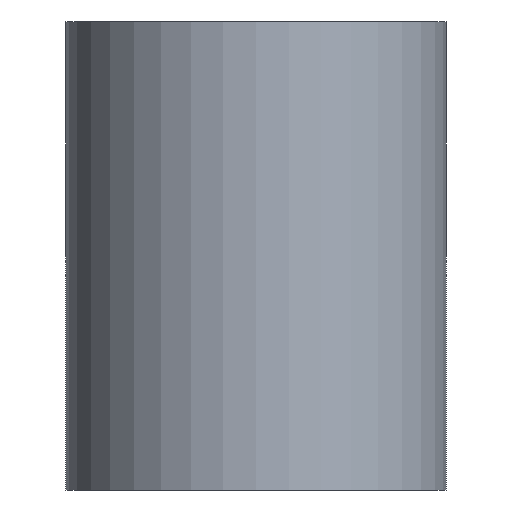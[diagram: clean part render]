
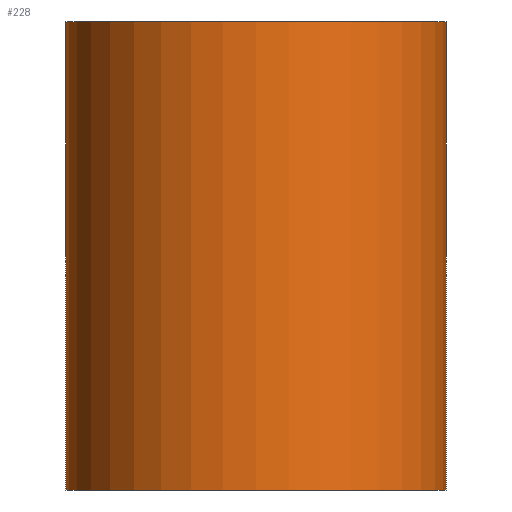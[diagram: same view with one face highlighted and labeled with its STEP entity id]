
A CAD part, left-side view. The second image highlights one B-rep face of the part: STEP entity #228.
In plain terms, the highlighted cylindrical face has radius 5 mm (diameter 10 mm), a partial arc.
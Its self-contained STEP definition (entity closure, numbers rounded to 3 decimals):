
#44 = PLANE('',#45);
#45 = AXIS2_PLACEMENT_3D('',#46,#47,#48);
#46 = CARTESIAN_POINT('',(-54.925,5.,0.));
#47 = DIRECTION('',(0.,1.,0.));
#48 = DIRECTION('',(1.,0.,0.));
#73 = PLANE('',#74);
#74 = AXIS2_PLACEMENT_3D('',#75,#76,#77);
#75 = CARTESIAN_POINT('',(0.,0.,12.3));
#76 = DIRECTION('',(0.,0.,1.));
#77 = DIRECTION('',(1.,0.,-0.));
#105 = PLANE('',#106);
#106 = AXIS2_PLACEMENT_3D('',#107,#108,#109);
#107 = CARTESIAN_POINT('',(0.,-5.,0.));
#108 = DIRECTION('',(0.,1.,0.));
#109 = DIRECTION('',(1.,0.,0.));
#132 = PLANE('',#133);
#133 = AXIS2_PLACEMENT_3D('',#134,#135,#136);
#134 = CARTESIAN_POINT('',(0.,0.,0.));
#135 = DIRECTION('',(0.,0.,1.));
#136 = DIRECTION('',(1.,0.,-0.));
#153 = VERTEX_POINT('',#154);
#154 = CARTESIAN_POINT('',(-54.925,-5.,12.3));
#175 = EDGE_CURVE('',#153,#176,#178,.T.);
#176 = VERTEX_POINT('',#177);
#177 = CARTESIAN_POINT('',(-54.925,5.,12.3));
#178 = SURFACE_CURVE('',#179,(#184,#195),.PCURVE_S1.);
#179 = CIRCLE('',#180,5.);
#180 = AXIS2_PLACEMENT_3D('',#181,#182,#183);
#181 = CARTESIAN_POINT('',(-54.925,0.,12.3));
#182 = DIRECTION('',(0.,0.,-1.));
#183 = DIRECTION('',(1.,0.,0.));
#184 = PCURVE('',#73,#185);
#185 = DEFINITIONAL_REPRESENTATION('',(#186),#194);
#186 = ( BOUNDED_CURVE() B_SPLINE_CURVE(2,(#187,#188,#189,#190,#191,#192
,#193),.UNSPECIFIED.,.T.,.F.) B_SPLINE_CURVE_WITH_KNOTS((1,2,2,2,2,1),(
    -2.094,0.,2.094,4.189,6.283,
8.378),.UNSPECIFIED.) CURVE() GEOMETRIC_REPRESENTATION_ITEM() 
RATIONAL_B_SPLINE_CURVE((1.,0.5,1.,0.5,1.,0.5,1.)) REPRESENTATION_ITEM(
  '') );
#187 = CARTESIAN_POINT('',(-49.925,0.));
#188 = CARTESIAN_POINT('',(-49.925,-8.66));
#189 = CARTESIAN_POINT('',(-57.425,-4.33));
#190 = CARTESIAN_POINT('',(-64.925,0.));
#191 = CARTESIAN_POINT('',(-57.425,4.33));
#192 = CARTESIAN_POINT('',(-49.925,8.66));
#193 = CARTESIAN_POINT('',(-49.925,0.));
#194 = ( GEOMETRIC_REPRESENTATION_CONTEXT(2) 
PARAMETRIC_REPRESENTATION_CONTEXT() REPRESENTATION_CONTEXT('2D SPACE',''
  ) );
#195 = PCURVE('',#196,#201);
#196 = CYLINDRICAL_SURFACE('',#197,5.);
#197 = AXIS2_PLACEMENT_3D('',#198,#199,#200);
#198 = CARTESIAN_POINT('',(-54.925,0.,0.));
#199 = DIRECTION('',(0.,0.,-1.));
#200 = DIRECTION('',(1.,0.,0.));
#201 = DEFINITIONAL_REPRESENTATION('',(#202),#206);
#202 = LINE('',#203,#204);
#203 = CARTESIAN_POINT('',(0.,-12.3));
#204 = VECTOR('',#205,1.);
#205 = DIRECTION('',(1.,0.));
#206 = ( GEOMETRIC_REPRESENTATION_CONTEXT(2) 
PARAMETRIC_REPRESENTATION_CONTEXT() REPRESENTATION_CONTEXT('2D SPACE',''
  ) );
#228 = ADVANCED_FACE('',(#229),#196,.T.);
#229 = FACE_BOUND('',#230,.T.);
#230 = EDGE_LOOP('',(#231,#254,#255,#278));
#231 = ORIENTED_EDGE('',*,*,#232,.T.);
#232 = EDGE_CURVE('',#233,#153,#235,.T.);
#233 = VERTEX_POINT('',#234);
#234 = CARTESIAN_POINT('',(-54.925,-5.,0.));
#235 = SURFACE_CURVE('',#236,(#240,#247),.PCURVE_S1.);
#236 = LINE('',#237,#238);
#237 = CARTESIAN_POINT('',(-54.925,-5.,0.));
#238 = VECTOR('',#239,1.);
#239 = DIRECTION('',(0.,0.,1.));
#240 = PCURVE('',#196,#241);
#241 = DEFINITIONAL_REPRESENTATION('',(#242),#246);
#242 = LINE('',#243,#244);
#243 = CARTESIAN_POINT('',(1.571,0.));
#244 = VECTOR('',#245,1.);
#245 = DIRECTION('',(0.,-1.));
#246 = ( GEOMETRIC_REPRESENTATION_CONTEXT(2) 
PARAMETRIC_REPRESENTATION_CONTEXT() REPRESENTATION_CONTEXT('2D SPACE',''
  ) );
#247 = PCURVE('',#105,#248);
#248 = DEFINITIONAL_REPRESENTATION('',(#249),#253);
#249 = LINE('',#250,#251);
#250 = CARTESIAN_POINT('',(-54.925,0.));
#251 = VECTOR('',#252,1.);
#252 = DIRECTION('',(0.,-1.));
#253 = ( GEOMETRIC_REPRESENTATION_CONTEXT(2) 
PARAMETRIC_REPRESENTATION_CONTEXT() REPRESENTATION_CONTEXT('2D SPACE',''
  ) );
#254 = ORIENTED_EDGE('',*,*,#175,.T.);
#255 = ORIENTED_EDGE('',*,*,#256,.F.);
#256 = EDGE_CURVE('',#257,#176,#259,.T.);
#257 = VERTEX_POINT('',#258);
#258 = CARTESIAN_POINT('',(-54.925,5.,0.));
#259 = SURFACE_CURVE('',#260,(#264,#271),.PCURVE_S1.);
#260 = LINE('',#261,#262);
#261 = CARTESIAN_POINT('',(-54.925,5.,0.));
#262 = VECTOR('',#263,1.);
#263 = DIRECTION('',(0.,0.,1.));
#264 = PCURVE('',#196,#265);
#265 = DEFINITIONAL_REPRESENTATION('',(#266),#270);
#266 = LINE('',#267,#268);
#267 = CARTESIAN_POINT('',(4.712,0.));
#268 = VECTOR('',#269,1.);
#269 = DIRECTION('',(0.,-1.));
#270 = ( GEOMETRIC_REPRESENTATION_CONTEXT(2) 
PARAMETRIC_REPRESENTATION_CONTEXT() REPRESENTATION_CONTEXT('2D SPACE',''
  ) );
#271 = PCURVE('',#44,#272);
#272 = DEFINITIONAL_REPRESENTATION('',(#273),#277);
#273 = LINE('',#274,#275);
#274 = CARTESIAN_POINT('',(0.,0.));
#275 = VECTOR('',#276,1.);
#276 = DIRECTION('',(0.,-1.));
#277 = ( GEOMETRIC_REPRESENTATION_CONTEXT(2) 
PARAMETRIC_REPRESENTATION_CONTEXT() REPRESENTATION_CONTEXT('2D SPACE',''
  ) );
#278 = ORIENTED_EDGE('',*,*,#279,.F.);
#279 = EDGE_CURVE('',#233,#257,#280,.T.);
#280 = SURFACE_CURVE('',#281,(#286,#293),.PCURVE_S1.);
#281 = CIRCLE('',#282,5.);
#282 = AXIS2_PLACEMENT_3D('',#283,#284,#285);
#283 = CARTESIAN_POINT('',(-54.925,0.,0.));
#284 = DIRECTION('',(0.,0.,-1.));
#285 = DIRECTION('',(1.,0.,0.));
#286 = PCURVE('',#196,#287);
#287 = DEFINITIONAL_REPRESENTATION('',(#288),#292);
#288 = LINE('',#289,#290);
#289 = CARTESIAN_POINT('',(0.,0.));
#290 = VECTOR('',#291,1.);
#291 = DIRECTION('',(1.,0.));
#292 = ( GEOMETRIC_REPRESENTATION_CONTEXT(2) 
PARAMETRIC_REPRESENTATION_CONTEXT() REPRESENTATION_CONTEXT('2D SPACE',''
  ) );
#293 = PCURVE('',#132,#294);
#294 = DEFINITIONAL_REPRESENTATION('',(#295),#303);
#295 = ( BOUNDED_CURVE() B_SPLINE_CURVE(2,(#296,#297,#298,#299,#300,#301
,#302),.UNSPECIFIED.,.T.,.F.) B_SPLINE_CURVE_WITH_KNOTS((1,2,2,2,2,1),(
    -2.094,0.,2.094,4.189,6.283,
8.378),.UNSPECIFIED.) CURVE() GEOMETRIC_REPRESENTATION_ITEM() 
RATIONAL_B_SPLINE_CURVE((1.,0.5,1.,0.5,1.,0.5,1.)) REPRESENTATION_ITEM(
  '') );
#296 = CARTESIAN_POINT('',(-49.925,0.));
#297 = CARTESIAN_POINT('',(-49.925,-8.66));
#298 = CARTESIAN_POINT('',(-57.425,-4.33));
#299 = CARTESIAN_POINT('',(-64.925,0.));
#300 = CARTESIAN_POINT('',(-57.425,4.33));
#301 = CARTESIAN_POINT('',(-49.925,8.66));
#302 = CARTESIAN_POINT('',(-49.925,0.));
#303 = ( GEOMETRIC_REPRESENTATION_CONTEXT(2) 
PARAMETRIC_REPRESENTATION_CONTEXT() REPRESENTATION_CONTEXT('2D SPACE',''
  ) );
